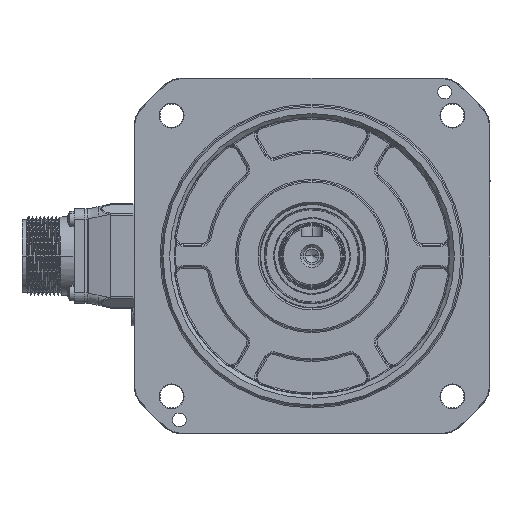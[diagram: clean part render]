
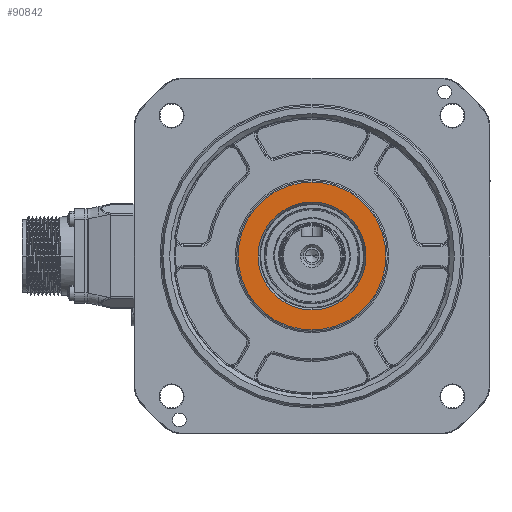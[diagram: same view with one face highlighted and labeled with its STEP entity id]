
A CAD part, left-side view. The second image highlights one B-rep face of the part: STEP entity #90842.
In plain terms, the highlighted planar face has unit normal (-1, 0, 0).
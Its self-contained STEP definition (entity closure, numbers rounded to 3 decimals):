
#3172 = DIRECTION ( 'NONE',  ( 0., 0., -1. ) ) ;
#6051 = AXIS2_PLACEMENT_3D ( 'NONE', #115321, #84225, #49592 ) ;
#7286 = CARTESIAN_POINT ( 'NONE',  ( 0.8, 0., 0. ) ) ;
#17566 = ORIENTED_EDGE ( 'NONE', *, *, #118028, .F. ) ;
#21203 = CIRCLE ( 'NONE', #25841, 27. ) ;
#22780 = EDGE_CURVE ( 'NONE', #133959, #53557, #108455, .T. ) ;
#25841 = AXIS2_PLACEMENT_3D ( 'NONE', #57996, #136721, #3172 ) ;
#26762 = CIRCLE ( 'NONE', #6051, 19.693 ) ;
#36239 = DIRECTION ( 'NONE',  ( 0., 0., -1. ) ) ;
#37791 = AXIS2_PLACEMENT_3D ( 'NONE', #45635, #112763, #36239 ) ;
#39783 = PLANE ( 'NONE',  #59310 ) ;
#39796 = EDGE_LOOP ( 'NONE', ( #67779, #17566 ) ) ;
#40471 = DIRECTION ( 'NONE',  ( 0., 0., -1. ) ) ;
#45543 = CARTESIAN_POINT ( 'NONE',  ( 0.8, 0., 19.693 ) ) ;
#45635 = CARTESIAN_POINT ( 'NONE',  ( 0.8, 0., 0. ) ) ;
#49592 = DIRECTION ( 'NONE',  ( 0., 0., -1. ) ) ;
#50825 = AXIS2_PLACEMENT_3D ( 'NONE', #7286, #51293, #40471 ) ;
#51293 = DIRECTION ( 'NONE',  ( -1., 0., 0. ) ) ;
#52030 = CARTESIAN_POINT ( 'NONE',  ( 0.8, 0., 27. ) ) ;
#53557 = VERTEX_POINT ( 'NONE', #85191 ) ;
#57996 = CARTESIAN_POINT ( 'NONE',  ( 0.8, 0., 0. ) ) ;
#58560 = DIRECTION ( 'NONE',  ( 0., 0., -1. ) ) ;
#59310 = AXIS2_PLACEMENT_3D ( 'NONE', #82378, #104044, #58560 ) ;
#59965 = CARTESIAN_POINT ( 'NONE',  ( 0.8, 0., -19.693 ) ) ;
#59982 = FACE_OUTER_BOUND ( 'NONE', #84316, .T. ) ;
#67779 = ORIENTED_EDGE ( 'NONE', *, *, #114950, .F. ) ;
#72741 = VERTEX_POINT ( 'NONE', #45543 ) ;
#74957 = ORIENTED_EDGE ( 'NONE', *, *, #79441, .T. ) ;
#79441 = EDGE_CURVE ( 'NONE', #53557, #133959, #21203, .T. ) ;
#81660 = FACE_BOUND ( 'NONE', #39796, .T. ) ;
#82378 = CARTESIAN_POINT ( 'NONE',  ( 0.8, 27.5, 0. ) ) ;
#82482 = ORIENTED_EDGE ( 'NONE', *, *, #22780, .T. ) ;
#84225 = DIRECTION ( 'NONE',  ( -1., 0., 0. ) ) ;
#84316 = EDGE_LOOP ( 'NONE', ( #74957, #82482 ) ) ;
#85191 = CARTESIAN_POINT ( 'NONE',  ( 0.8, 0., -27. ) ) ;
#90842 = ADVANCED_FACE ( 'NONE', ( #81660, #59982 ), #39783, .F. ) ;
#104044 = DIRECTION ( 'NONE',  ( 1., 0., 0. ) ) ;
#108455 = CIRCLE ( 'NONE', #50825, 27. ) ;
#112763 = DIRECTION ( 'NONE',  ( -1., 0., 0. ) ) ;
#114950 = EDGE_CURVE ( 'NONE', #72741, #124293, #139254, .T. ) ;
#115321 = CARTESIAN_POINT ( 'NONE',  ( 0.8, 0., 0. ) ) ;
#118028 = EDGE_CURVE ( 'NONE', #124293, #72741, #26762, .T. ) ;
#124293 = VERTEX_POINT ( 'NONE', #59965 ) ;
#133959 = VERTEX_POINT ( 'NONE', #52030 ) ;
#136721 = DIRECTION ( 'NONE',  ( -1., 0., 0. ) ) ;
#139254 = CIRCLE ( 'NONE', #37791, 19.693 ) ;
